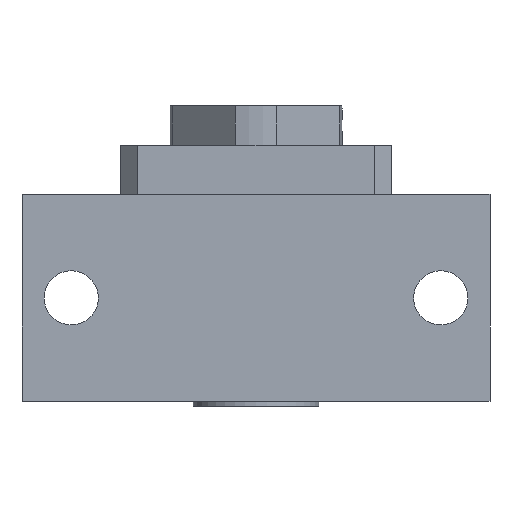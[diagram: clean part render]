
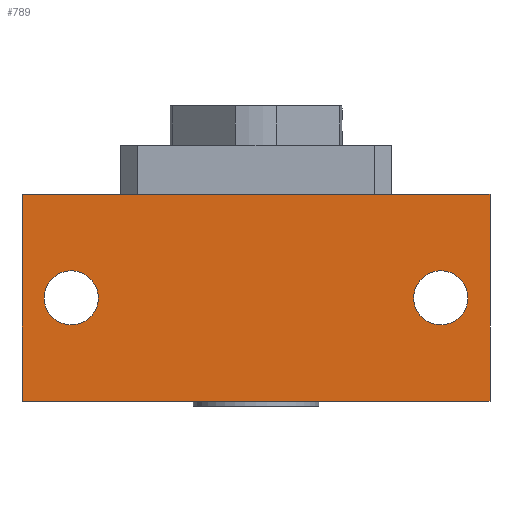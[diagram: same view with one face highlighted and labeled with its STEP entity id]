
A CAD part, front view. The second image highlights one B-rep face of the part: STEP entity #789.
In plain terms, the highlighted planar face has unit normal (0, -1, 0).
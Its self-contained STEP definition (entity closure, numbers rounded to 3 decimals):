
#29=LINE($,#1282,#99);
#73=LINE($,#1410,#143);
#81=LINE($,#1425,#151);
#82=LINE($,#1427,#152);
#99=VECTOR($,#917,95.);
#143=VECTOR($,#1051,42.);
#151=VECTOR($,#1067,42.);
#152=VECTOR($,#1070,95.);
#241=FACE_BOUND($,#312,.T.);
#242=FACE_BOUND($,#313,.T.);
#243=FACE_BOUND($,#314,.T.);
#312=EDGE_LOOP($,(#691));
#313=EDGE_LOOP($,(#692));
#314=EDGE_LOOP($,(#693,#694,#695,#696));
#337=CIRCLE($,#851,5.5);
#339=CIRCLE($,#854,5.5);
#371=VERTEX_POINT($,#1279);
#372=VERTEX_POINT($,#1281);
#407=VERTEX_POINT($,#1399);
#409=VERTEX_POINT($,#1404);
#411=VERTEX_POINT($,#1409);
#414=VERTEX_POINT($,#1423);
#447=EDGE_CURVE($,#372,#371,#29,.T.);
#501=EDGE_CURVE($,#407,#407,#337,.T.);
#503=EDGE_CURVE($,#409,#409,#339,.T.);
#505=EDGE_CURVE($,#372,#411,#73,.T.);
#513=EDGE_CURVE($,#371,#414,#81,.T.);
#514=EDGE_CURVE($,#411,#414,#82,.T.);
#691=ORIENTED_EDGE($,*,*,#501,.T.);
#692=ORIENTED_EDGE($,*,*,#503,.T.);
#693=ORIENTED_EDGE($,*,*,#447,.T.);
#694=ORIENTED_EDGE($,*,*,#513,.T.);
#695=ORIENTED_EDGE($,*,*,#514,.F.);
#696=ORIENTED_EDGE($,*,*,#505,.F.);
#744=PLANE($,#861);
#789=ADVANCED_FACE($,(#241,#242,#243),#744,.T.);
#851=AXIS2_PLACEMENT_3D($,#1400,#1039,#1040);
#854=AXIS2_PLACEMENT_3D($,#1405,#1045,#1046);
#861=AXIS2_PLACEMENT_3D($,#1426,#1068,#1069);
#917=DIRECTION($,(1.,0.,0.));
#1039=DIRECTION('center_axis',(0.,1.,0.));
#1040=DIRECTION('ref_axis',(1.,0.,0.));
#1045=DIRECTION('center_axis',(0.,1.,0.));
#1046=DIRECTION('ref_axis',(1.,0.,0.));
#1051=DIRECTION($,(0.,0.,1.));
#1067=DIRECTION($,(0.,0.,1.));
#1068=DIRECTION('center_axis',(0.,-1.,0.));
#1069=DIRECTION('ref_axis',(1.,0.,0.));
#1070=DIRECTION($,(1.,0.,0.));
#1279=CARTESIAN_POINT('',(95.,0.,0.));
#1281=CARTESIAN_POINT('',(0.,0.,0.));
#1282=CARTESIAN_POINT($,(0.,0.,0.));
#1399=CARTESIAN_POINT('',(4.5,0.,21.));
#1400=CARTESIAN_POINT('Origin',(10.,0.,21.));
#1404=CARTESIAN_POINT('',(79.5,0.,21.));
#1405=CARTESIAN_POINT('Origin',(85.,0.,21.));
#1409=CARTESIAN_POINT('',(0.,0.,42.));
#1410=CARTESIAN_POINT($,(0.,0.,0.));
#1423=CARTESIAN_POINT('',(95.,0.,42.));
#1425=CARTESIAN_POINT($,(95.,0.,0.));
#1426=CARTESIAN_POINT('Origin',(0.,0.,0.));
#1427=CARTESIAN_POINT($,(0.,0.,42.));
